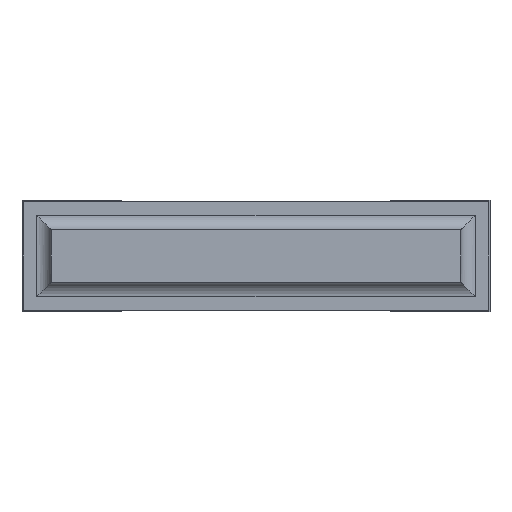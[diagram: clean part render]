
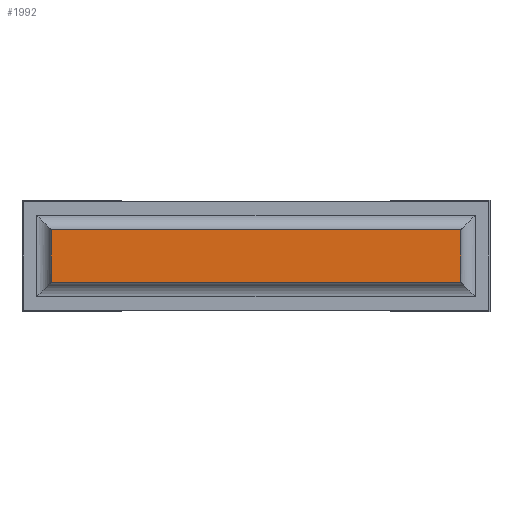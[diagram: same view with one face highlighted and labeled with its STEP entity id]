
A CAD part, front view. The second image highlights one B-rep face of the part: STEP entity #1992.
In plain terms, the highlighted planar face has unit normal (0, -1, 0).
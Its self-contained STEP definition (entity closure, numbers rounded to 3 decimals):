
#142=FACE_OUTER_BOUND('',#263,.T.);
#263=EDGE_LOOP('',(#1571,#1572,#1573,#1574));
#464=LINE('',#3065,#716);
#470=LINE('',#3076,#722);
#473=LINE('',#3084,#725);
#474=LINE('',#3085,#726);
#716=VECTOR('',#2488,10.);
#722=VECTOR('',#2498,10.);
#725=VECTOR('',#2507,10.);
#726=VECTOR('',#2508,10.);
#929=VERTEX_POINT('',#3063);
#930=VERTEX_POINT('',#3064);
#933=VERTEX_POINT('',#3075);
#935=VERTEX_POINT('',#3083);
#1150=EDGE_CURVE('',#929,#930,#464,.T.);
#1156=EDGE_CURVE('',#929,#933,#470,.T.);
#1160=EDGE_CURVE('',#935,#930,#473,.T.);
#1161=EDGE_CURVE('',#933,#935,#474,.T.);
#1571=ORIENTED_EDGE('',*,*,#1160,.F.);
#1572=ORIENTED_EDGE('',*,*,#1161,.F.);
#1573=ORIENTED_EDGE('',*,*,#1156,.F.);
#1574=ORIENTED_EDGE('',*,*,#1150,.T.);
#1890=PLANE('',#2145);
#1992=ADVANCED_FACE('',(#142),#1890,.T.);
#2145=AXIS2_PLACEMENT_3D('',#3082,#2505,#2506);
#2488=DIRECTION('',(0.,0.,1.));
#2498=DIRECTION('',(-1.,0.,0.));
#2505=DIRECTION('center_axis',(0.,-1.,0.));
#2506=DIRECTION('ref_axis',(0.,0.,-1.));
#2507=DIRECTION('',(1.,0.,0.));
#2508=DIRECTION('',(0.,0.,1.));
#3063=CARTESIAN_POINT('',(1.5,-3.,-0.28));
#3064=CARTESIAN_POINT('',(1.5,-3.,-0.1));
#3065=CARTESIAN_POINT('',(1.5,-3.,-0.28));
#3075=CARTESIAN_POINT('',(0.1,-3.,-0.28));
#3076=CARTESIAN_POINT('',(1.5,-3.,-0.28));
#3082=CARTESIAN_POINT('Origin',(0.1,-3.,-0.19));
#3083=CARTESIAN_POINT('',(0.1,-3.,-0.1));
#3084=CARTESIAN_POINT('',(0.1,-3.,-0.1));
#3085=CARTESIAN_POINT('',(0.1,-3.,-0.28));
